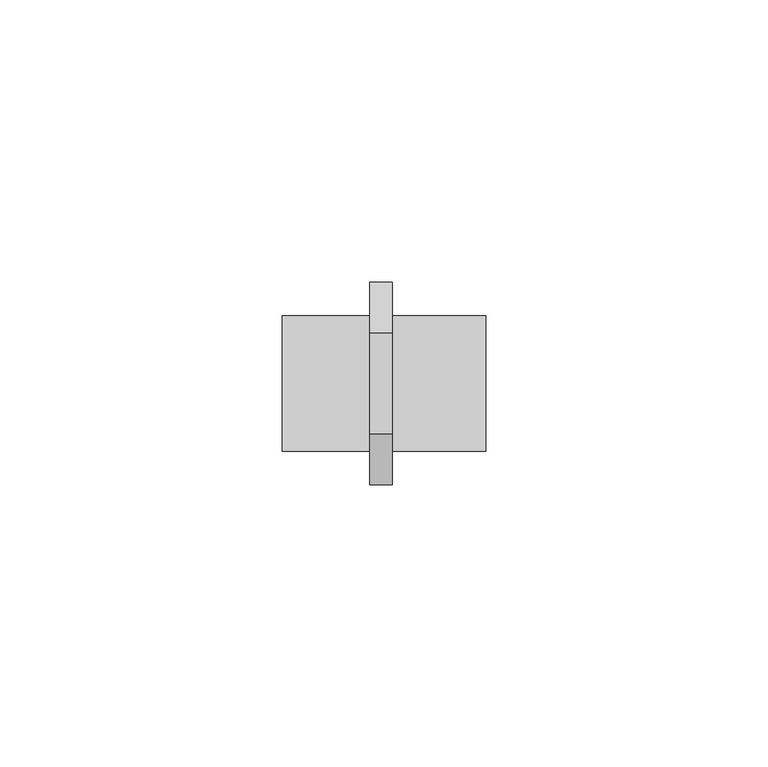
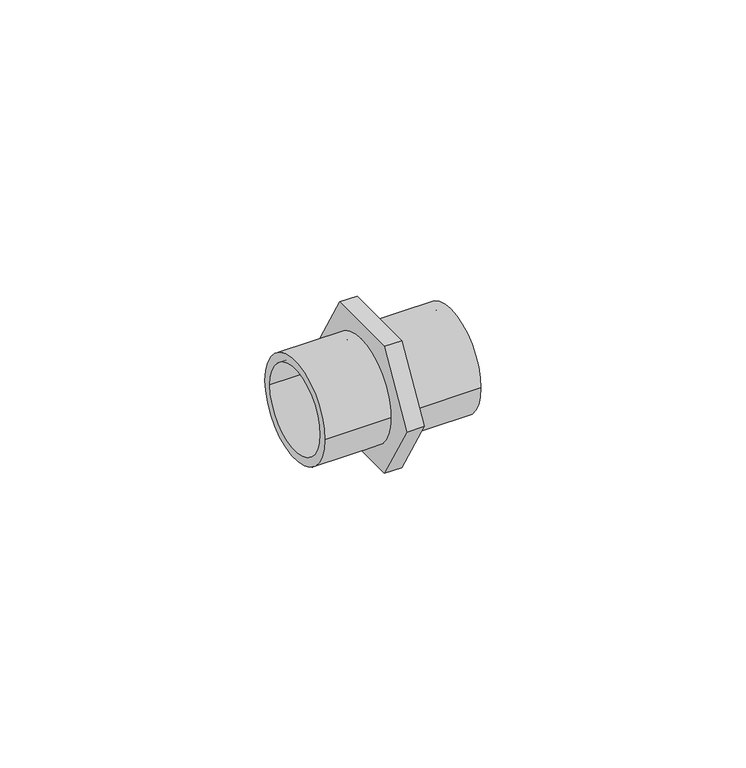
"""IFC4 building model written with IfcOpenShell, lengths in millimetres: pipe fitting geometry, VALTEC_VTi.582.I_Ниппель_Нержавеющая сталь : VTi.582.I."""

from ifc_helpers import new_model, si_unit, point, frame, origin, origin_2d, place, context, project, spatial, polyline, circle_curve, trimmed, segment, composite_curve, outline, extrude, source, transform, mapped, element, save


def pipe_fitting_706fa7d9(model_context):
    return source(origin(), model_context, "Body", "SweptSolid", [
        extrude(outline(polyline([(-17.8978583, 0.0), (-8.9489292, 15.5), (8.9489292, 15.5), (17.8978583, 0.0), (8.9489292, -15.5), (-8.9489292, -15.5), (-17.8978583, 0.0)]), holes=[composite_curve([segment(trimmed(circle_curve(origin_2d(), 10.0), [point((10.0, 0.0))], [point((-10.0, 0.0))], True, "CARTESIAN"), True, "CONTINUOUS"), segment(trimmed(circle_curve(origin_2d(), 10.0), [point((-10.0, 0.0))], [point((10.0, 0.0))], True, "CARTESIAN"), True, "CONTINUOUS")], self_intersect=False)]), frame((-2.0, 0.0, 0.0), z_axis=(1.0, 0.0, 0.0), x_axis=(0.0, 1.0, 0.0)), (0.0, 0.0, 1.0), 4.0),
        extrude(outline(composite_curve([segment(trimmed(circle_curve(origin_2d(), 12.0), [point((-12.0, 0.0))], [point((12.0, 0.0))], False, "CARTESIAN"), True, "CONTINUOUS"), segment(trimmed(circle_curve(origin_2d(), 12.0), [point((12.0, 0.0))], [point((-12.0, 0.0))], False, "CARTESIAN"), True, "CONTINUOUS")], self_intersect=False), holes=[composite_curve([segment(trimmed(circle_curve(origin_2d(), 10.0), [point((-10.0, 0.0))], [point((10.0, 0.0))], True, "CARTESIAN"), True, "CONTINUOUS"), segment(trimmed(circle_curve(origin_2d(), 10.0), [point((10.0, 0.0))], [point((-10.0, 0.0))], True, "CARTESIAN"), True, "CONTINUOUS")], self_intersect=False)]), frame((2.0, 0.0, 0.0), z_axis=(1.0, 0.0, 0.0), x_axis=(0.0, 1.0, 0.0)), (0.0, 0.0, 1.0), 16.5),
        extrude(outline(composite_curve([segment(trimmed(circle_curve(origin_2d(), 12.0), [point((-12.0, 0.0))], [point((12.0, 0.0))], False, "CARTESIAN"), True, "CONTINUOUS"), segment(trimmed(circle_curve(origin_2d(), 12.0), [point((12.0, 0.0))], [point((-12.0, 0.0))], False, "CARTESIAN"), True, "CONTINUOUS")], self_intersect=False), holes=[composite_curve([segment(trimmed(circle_curve(origin_2d(), 10.0), [point((-10.0, 0.0))], [point((10.0, 0.0))], True, "CARTESIAN"), True, "CONTINUOUS"), segment(trimmed(circle_curve(origin_2d(), 10.0), [point((10.0, 0.0))], [point((-10.0, 0.0))], True, "CARTESIAN"), True, "CONTINUOUS")], self_intersect=False)]), frame((-17.5, 0.0, 0.0), z_axis=(1.0, 0.0, 0.0), x_axis=(0.0, 1.0, 0.0)), (0.0, 0.0, 1.0), 15.5),
    ])


if __name__ == "__main__":
    model = new_model("IFC4")
    model_context = context("Model", 3, world=origin())
    ifc_project = project(units=[si_unit("LENGTHUNIT", "METRE", prefix="MILLI")], contexts=[model_context])
    site = spatial("IfcSite", under=ifc_project)
    building = spatial("IfcBuilding", under=site)
    placement = place(None, origin())
    pipe_fitting_shape = pipe_fitting_706fa7d9(model_context)
    element("IfcPipeFitting", 1, ObjectType="VALTEC_VTi.582.I_Ниппель_Нержавеющая сталь : VTi.582.I", at=placement, inside=building, context=model_context, shape_type="MappedRepresentation", body=[
        mapped(pipe_fitting_shape, transform((0.0, 0.0, 0.0), x_axis=(1.0, 0.0, 0.0), y_axis=(0.0, 1.0, 0.0), z_axis=(0.0, 0.0, 1.0))),
    ])
    save(model, "model.ifc")
